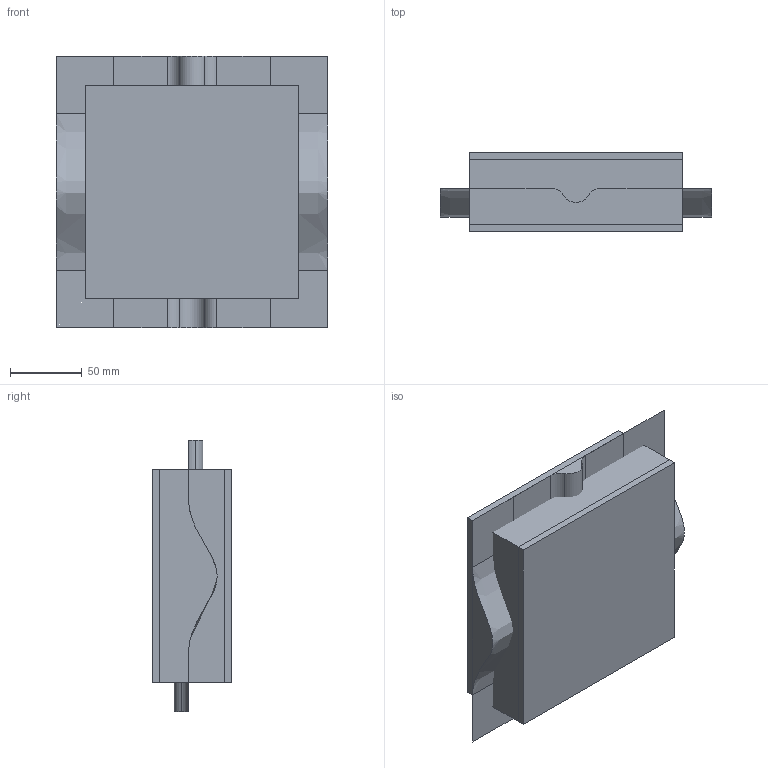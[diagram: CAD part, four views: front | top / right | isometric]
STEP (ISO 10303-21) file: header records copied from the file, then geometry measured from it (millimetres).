
FILE_DESCRIPTION(('CATIA V5 STEP Exchange'),'2;1');
FILE_NAME('C:\_Andres\UNIVERSIDAD\IQS\ASIGNATURAS\DAO\EXF\EXF-16172c\2inicio\Domeque_Sanz_Ej02_v9.stp','2017-03-05T15:45:19+00:00',('none'),('none'),'CATIA Version 5-6 Release 2014 SP1 HF18','CATIA V5 STEP AP203','none');
FILE_SCHEMA(('CONFIG_CONTROL_DESIGN'));
Length unit declared in the file: millimetre
Products named in the file (1): Domeque_Sanz_Ej02_v9
Bounding box: 189 x 55 x 189 mm (x, y, z)
Surface area: 227894.4 mm2
Topology: 3 solids, 10 shells, 72 faces, 205 edges, 150 vertices
Faces by surface type: bspline 32, plane 32, cylinder 6, extrusion 2
Entity records: 6590 total; most frequent: CARTESIAN_POINT 5273, ORIENTED_EDGE 288, DIRECTION 151, EDGE_CURVE 132, VERTEX_POINT 84, VECTOR 77, LINE 75, ADVANCED_FACE 72
